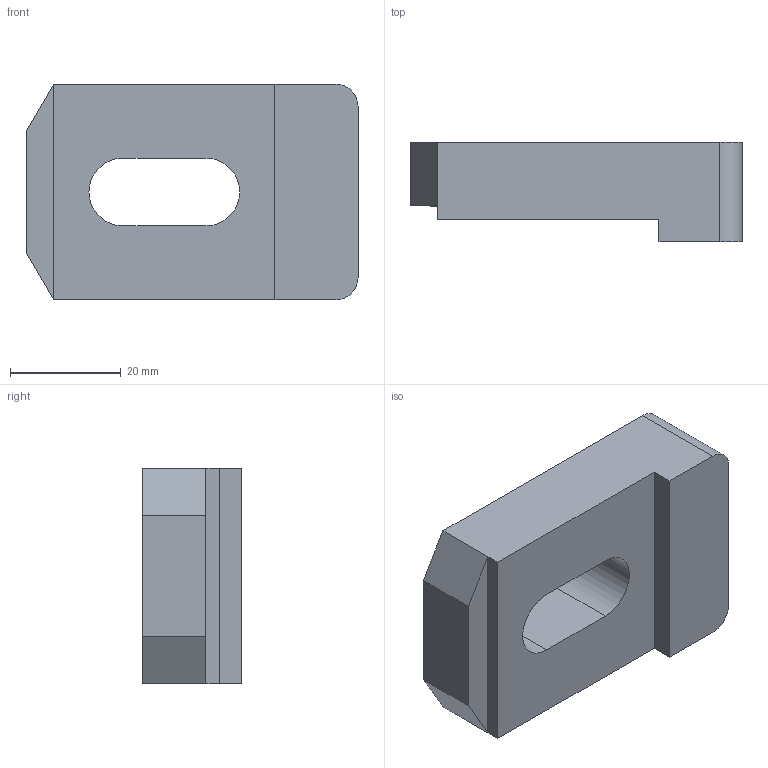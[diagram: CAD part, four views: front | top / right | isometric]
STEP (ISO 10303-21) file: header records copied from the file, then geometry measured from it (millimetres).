
FILE_DESCRIPTION (( 'STEP AP203' ), '1' );
FILE_NAME ('VA00800.STEP', '2016-06-17T06:53:04', ( '' ), ( '' ), 'SwSTEP 2.0', 'SolidWorks 2016', '' );
FILE_SCHEMA (( 'CONFIG_CONTROL_DESIGN' ));
Length unit declared in the file: millimetre
Products named in the file (1): VA00800
Bounding box: 60 x 18 x 39 mm (x, y, z)
Volume: 29777.6 mm3; surface area: 7970.3 mm2
Topology: 1 solids, 1 shells, 19 faces, 49 edges, 32 vertices
Faces by surface type: plane 14, cylinder 5
Entity records: 658 total; most frequent: CARTESIAN_POINT 101, DIRECTION 99, ORIENTED_EDGE 98, EDGE_CURVE 49, LINE 39, VECTOR 39, VERTEX_POINT 32, AXIS2_PLACEMENT_3D 30
